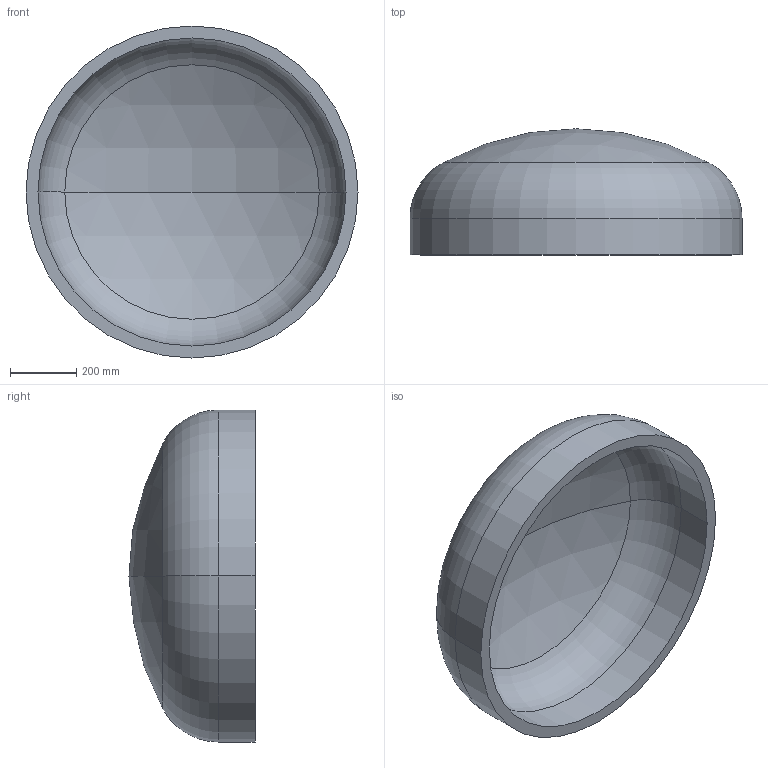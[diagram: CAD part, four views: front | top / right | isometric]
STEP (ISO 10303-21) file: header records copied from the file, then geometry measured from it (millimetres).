
FILE_DESCRIPTION (( 'STEP AP203' ), '1' );
FILE_NAME ('DIN 28013 Korbbogenform_-_Boden DIN 28013 - 1000 x 110 - I - s=36.step', '2016-07-01T08:47:49', ( '' ), ( '' ), 'SwSTEP 2.0', 'SolidWorks 2013', '' );
FILE_SCHEMA (( 'CONFIG_CONTROL_DESIGN' ));
Length unit declared in the file: millimetre
Products named in the file (1): DIN 28013 Korbbogenform_-_Boden DIN 28013 - 1000 x 110 - I - s=36
Bounding box: 1000 x 379.83 x 1000 mm (x, y, z)
Volume: 49411004.3 mm3; surface area: 2856795.3 mm2
Topology: 1 solids, 1 shells, 13 faces, 24 edges, 14 vertices
Faces by surface type: torus 4, cylinder 4, sphere 4, plane 1
Entity records: 407 total; most frequent: DIRECTION 72, CARTESIAN_POINT 52, ORIENTED_EDGE 48, AXIS2_PLACEMENT_3D 34, EDGE_CURVE 24, CIRCLE 20, VERTEX_POINT 14, EDGE_LOOP 14
